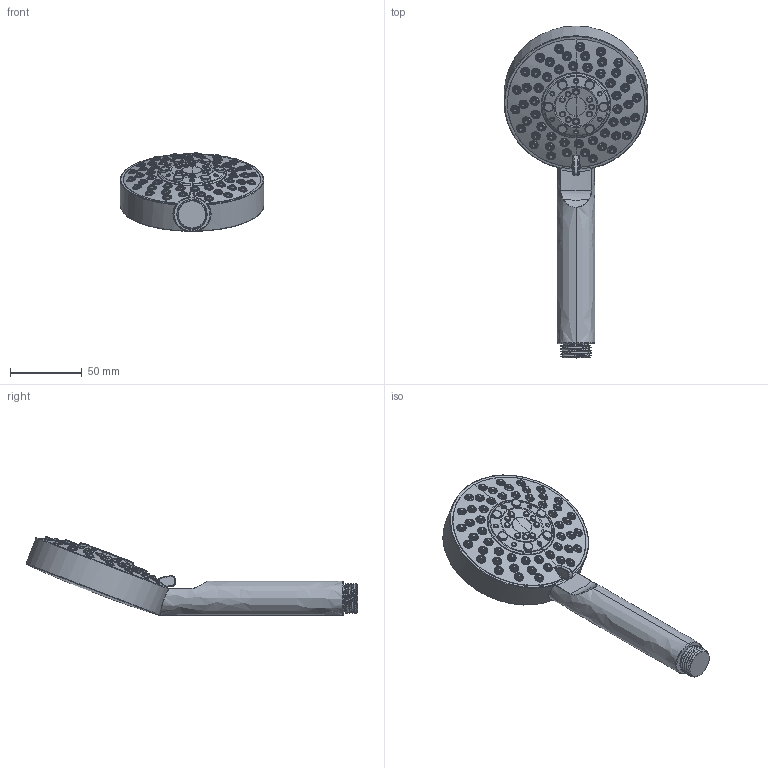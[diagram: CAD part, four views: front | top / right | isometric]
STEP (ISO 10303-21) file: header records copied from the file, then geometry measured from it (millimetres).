
FILE_DESCRIPTION((''),'2;1');
FILE_NAME('76555--','2026-09-10T14:09:49',('simi1'),(''),'CREO PARAMETRIC BY PTC INC, 2022244','CREO PARAMETRIC BY PTC INC, 2022244','');
FILE_SCHEMA(('AUTOMOTIVE_DESIGN { 1 0 10303 214 1 1 1 1 }'));
Length unit declared in the file: millimetre
Products named in the file (1): 76555--
Bounding box: 99.97 x 231.04 x 55.07 mm (x, y, z)
Surface area: 44974.2 mm2 (no closed solid volume)
Topology: 0 solids, 125 shells, 932 faces, 2380 edges, 1501 vertices
Faces by surface type: bspline 502, cylinder 179, cone 130, plane 67, torus 41, revolution 6, sphere 4, extrusion 3
Entity records: 112483 total; most frequent: CARTESIAN_POINT 88147, ORIENTED_EDGE 4245, EDGE_CURVE 2376, DIRECTION 2313, VERTEX_POINT 1501, B_SPLINE_CURVE_WITH_KNOTS 1432, PRESENTATION_STYLE_ASSIGNMENT 941, STYLED_ITEM 941
